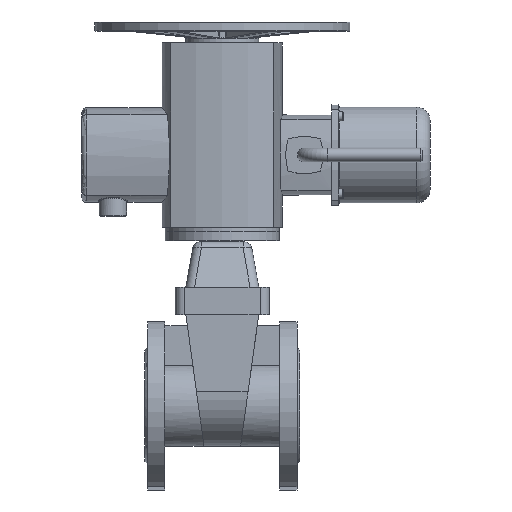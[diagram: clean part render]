
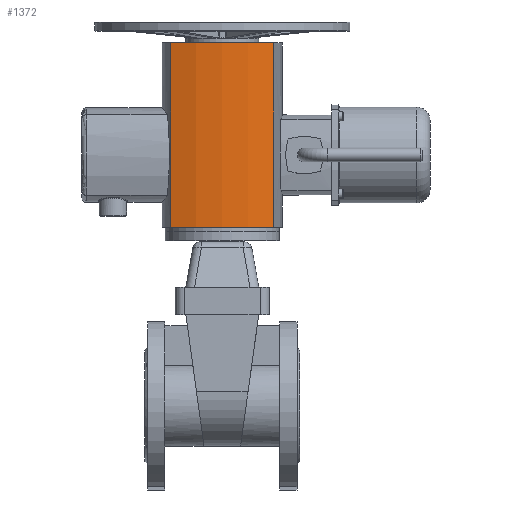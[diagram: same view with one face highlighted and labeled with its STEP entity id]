
A CAD part, left-side view. The second image highlights one B-rep face of the part: STEP entity #1372.
In plain terms, the highlighted cylindrical face has radius 180 mm (diameter 360 mm), a partial arc.
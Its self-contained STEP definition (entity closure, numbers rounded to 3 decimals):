
#1372=ADVANCED_FACE('',(#5200),#5202,.T.);
#5200=FACE_BOUND('',#5201,.T.);
#5201=EDGE_LOOP('',(#8358,#8359,#8360,#8361));
#5202=CYLINDRICAL_SURFACE('',#5203,180.);
#5203=AXIS2_PLACEMENT_3D('',#5204,#5205,#5206);
#5204=CARTESIAN_POINT('',(114.312,0.,196.));
#5205=DIRECTION('',(0.,0.,1.));
#5206=DIRECTION('',(-0.949,0.314,0.));
#8358=ORIENTED_EDGE('',*,*,#9729,.T.);
#8359=ORIENTED_EDGE('',*,*,#9725,.T.);
#8360=ORIENTED_EDGE('',*,*,#9738,.F.);
#8361=ORIENTED_EDGE('',*,*,#9732,.F.);
#9725=EDGE_CURVE('',#10812,#10810,#10813,.T.);
#9729=EDGE_CURVE('',#10818,#10812,#10819,.T.);
#9732=EDGE_CURVE('',#10818,#10823,#10824,.T.);
#9738=EDGE_CURVE('',#10823,#10810,#10834,.T.);
#10810=VERTEX_POINT('',#14106);
#10812=VERTEX_POINT('',#14111);
#10813=LINE('',#14112,#14113);
#10818=VERTEX_POINT('',#14190);
#10819=CIRCLE('',#14191,180.);
#10823=VERTEX_POINT('',#14204);
#10824=LINE('',#14205,#14206);
#10834=CIRCLE('',#14407,180.);
#14106=CARTESIAN_POINT('',(-56.569,-56.569,398.));
#14111=CARTESIAN_POINT('',(-56.569,-56.569,196.));
#14112=CARTESIAN_POINT('',(-56.569,-56.569,196.));
#14113=VECTOR('',#14114,1.);
#14114=DIRECTION('',(0.,0.,1.));
#14190=CARTESIAN_POINT('',(-56.569,56.569,196.));
#14191=AXIS2_PLACEMENT_3D('',#14192,#14193,#14194);
#14192=CARTESIAN_POINT('',(114.312,0.,196.));
#14193=DIRECTION('',(0.,0.,1.));
#14194=DIRECTION('',(-0.949,0.314,0.));
#14204=CARTESIAN_POINT('',(-56.569,56.569,398.));
#14205=CARTESIAN_POINT('',(-56.569,56.569,196.));
#14206=VECTOR('',#14207,1.);
#14207=DIRECTION('',(0.,0.,1.));
#14407=AXIS2_PLACEMENT_3D('',#14408,#14409,#14410);
#14408=CARTESIAN_POINT('',(114.312,0.,398.));
#14409=DIRECTION('',(0.,0.,1.));
#14410=DIRECTION('',(-0.949,0.314,0.));
